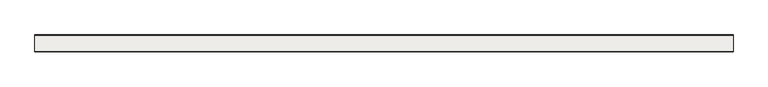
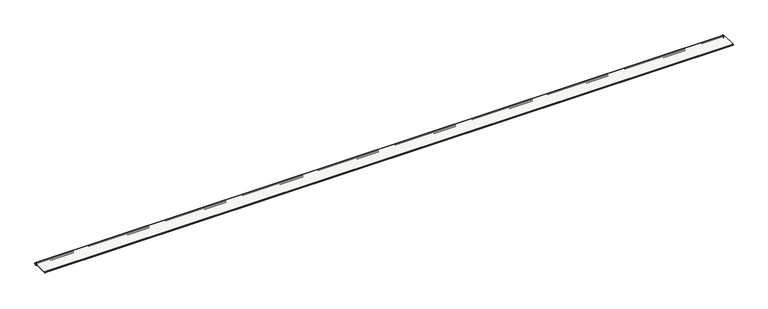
"""IFC4 building model written with IfcOpenShell, lengths in millimetres: slab geometry, ROSA GRES_J62 : Pieza J62_Tao_Beige_Anti-Slip."""

from ifc_helpers import new_model, si_unit, frame, origin, place, context, project, spatial, polyline, circle_curve, source, transform, mapped, element, save
from ifc_brep_helpers import plane_surface, cylinder_surface, revolved_surface, advanced_brep


def slab_61d0ff87(model_context):
    return source(origin(), model_context, "Body", "AdvancedBrep", [
        advanced_brep(
        [(13030.0, -317.0, 2.5), (13030.0, -314.5, 0.0), (13030.0, -29.6363327, 0.0), (13030.0, -24.5931401, -10.7276172), (13030.0, -29.4411632, -18.2354274), (13030.0, -29.4411632, -24.4017055), (13030.0, -26.7240304, -27.1188383), (13030.0, -20.3835268, -27.1188383), (13030.0, -19.4823107, -26.1230058), (13030.0, -18.5721049, -25.1262743), (13030.0, -17.666394, -25.1262743), (13030.0, -14.760096, -23.1626329), (13030.0, -0.7963935, -2.84429), (13030.0, 0.0, -0.2793766), (13030.0, 0.0, 8.2984975), (13030.0, -3.9876034, 12.7946269), (13030.0, -314.2818333, 12.7946269), (13030.0, -316.9989661, 10.0774941), (0.0, -317.0, 2.5), (0.0, -317.0, 10.0774941), (0.0, -314.2818333, 12.7946269), (0.0, -3.9876034, 12.7946269), (0.0, 0.0, 8.2984975), (0.0, 0.0, -0.2793766), (0.0, -0.7963935, -2.84429), (0.0, -14.760096, -23.1626329), (0.0, -17.666394, -25.1262743), (0.0, -18.5721049, -25.1262743), (0.0, -19.473321, -26.1221068), (0.0, -20.3835268, -27.1188383), (0.0, -26.7240304, -27.1188383), (0.0, -29.4411632, -24.4017055), (0.0, -29.4411632, -18.2354274), (0.0, -24.5931401, -10.7276172), (0.0, -29.6363327, 0.0), (0.0, -314.5, 0.0)],
        [
            (0, 1, circle_curve(frame((13030.0, -314.5, 2.5), z_axis=(1.0, 0.0, 0.0), x_axis=(0.0, -1.0, 0.0)), 2.5)),
            (1, 2),
            (2, 3, circle_curve(frame((13030.0, -30.1604402, -6.7956336), z_axis=(-1.0, 0.0, 0.0), x_axis=(0.0, 0.5768912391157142, 0.8168209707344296)), 6.8158144)),
            (3, 4),
            (4, 5),
            (5, 6, circle_curve(frame((13030.0, -26.7240304, -24.4017055), z_axis=(1.0, 0.0, 0.0), x_axis=(0.0, -1.0, 0.0)), 2.7171328)),
            (6, 7),
            (7, 8, circle_curve(frame((13030.0, -20.3835268, -26.2131274), z_axis=(1.0, 0.0, 0.0), x_axis=(0.0, 0.0995037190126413, -0.9950371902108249)), 0.9057109)),
            (8, 9, circle_curve(frame((13030.0, -18.5721049, -26.0319852), z_axis=(-1.0, 0.0, 0.0), x_axis=(0.0, -1.0, 0.0)), 0.9057109)),
            (9, 10),
            (10, 11, circle_curve(frame((13030.0, -18.9818017, -20.0468365), z_axis=(1.0, 0.0, 0.0), x_axis=(0.0, -0.5938246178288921, -0.804594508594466)), 5.2469978)),
            (11, 12),
            (12, 13, circle_curve(frame((13030.0, -4.5285547, -0.2793766), z_axis=(1.0, 0.0, 0.0), x_axis=(0.0, 0.0, -1.0)), 4.5285547)),
            (13, 14),
            (14, 15, circle_curve(frame((13030.0, -4.5285547, 8.2984975), z_axis=(1.0, 0.0, 0.0), x_axis=(0.0, 0.9928398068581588, -0.11945341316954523)), 4.5285547)),
            (15, 16),
            (16, 17, circle_curve(frame((13030.0, -314.2818333, 10.0774941), z_axis=(1.0, 0.0, 0.0), x_axis=(0.0, 0.0, 1.0)), 2.7171328)),
            (17, 0),
            (18, 19),
            (19, 20, circle_curve(frame((0.0, -314.2818333, 10.0774941), z_axis=(-1.0, 0.0, 0.0), x_axis=(0.0, 0.0, 1.0)), 2.7171328)),
            (20, 21),
            (21, 22, circle_curve(frame((0.0, -4.5285547, 8.2984975), z_axis=(-1.0, 0.0, 0.0), x_axis=(0.0, 0.9928398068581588, -0.11945341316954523)), 4.5285547)),
            (22, 23),
            (23, 24, circle_curve(frame((0.0, -4.5285547, -0.2793766), z_axis=(-1.0, 0.0, 0.0), x_axis=(0.0, 0.0, -1.0)), 4.5285547)),
            (24, 25),
            (25, 26, circle_curve(frame((0.0, -18.9818017, -20.0468365), z_axis=(-1.0, 0.0, 0.0), x_axis=(0.0, -0.5938246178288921, -0.804594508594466)), 5.2469978)),
            (26, 27),
            (27, 28, circle_curve(frame((0.0, -18.5721049, -26.0319852), z_axis=(1.0, 0.0, 0.0), x_axis=(0.0, -1.0, 0.0)), 0.9057109)),
            (28, 29, circle_curve(frame((0.0, -20.3835268, -26.2131274), z_axis=(-1.0, 0.0, 0.0), x_axis=(0.0, 0.0995037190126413, -0.9950371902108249)), 0.9057109)),
            (29, 30),
            (30, 31, circle_curve(frame((0.0, -26.7240304, -24.4017055), z_axis=(-1.0, 0.0, 0.0), x_axis=(0.0, -1.0, 0.0)), 2.7171328)),
            (31, 32),
            (32, 33),
            (33, 34, circle_curve(frame((0.0, -30.1604402, -6.7956336), z_axis=(1.0, 0.0, 0.0), x_axis=(0.0, 0.5768912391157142, 0.8168209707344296)), 6.8158144)),
            (34, 35),
            (35, 18, circle_curve(frame((0.0, -314.5, 2.5), z_axis=(-1.0, 0.0, 0.0), x_axis=(0.0, -1.0, 0.0)), 2.5)),
            (1, 35),
            (34, 2),
            (0, 18),
            (17, 19),
            (16, 20),
            (15, 21),
            (14, 22),
            (13, 23),
            (12, 24),
            (11, 25),
            (10, 26),
            (9, 27),
            (8, 28),
            (7, 29),
            (6, 30),
            (5, 31),
            (4, 32),
            (3, 33),
        ],
        [
            plane_surface(frame((13030.0, -317.0, 10.0774941), z_axis=(1.0, 0.0, 0.0), x_axis=(0.0, 0.0, 1.0))),
            plane_surface(frame((0.0, -317.0, 10.0774941), z_axis=(-1.0, 0.0, 0.0), x_axis=(0.0, 0.0, -1.0))),
            plane_surface(frame((13030.0, -172.0681664, 0.0), z_axis=(0.0, 0.0, -1.0), x_axis=(0.0, -1.0, 0.0))),
            cylinder_surface(frame((13030.0, -314.5, 2.5), z_axis=(-1.0, 0.0, 0.0), x_axis=(0.0, -1.0, 0.0)), 2.5),
            plane_surface(frame((13030.0, -317.0, 6.288747), z_axis=(0.0, -1.0, 0.0), x_axis=(0.0, 0.0, 1.0))),
            cylinder_surface(frame((13030.0, -314.2818333, 10.0774941), z_axis=(-1.0, 0.0, 0.0), x_axis=(0.0, 0.0, 1.0)), 2.7171328),
            plane_surface(frame((13030.0, -159.1347183, 12.7946269), z_axis=(0.0, 0.0, 1.0), x_axis=(0.0, 1.0, 0.0))),
            cylinder_surface(frame((13030.0, -4.5285547, 8.2984975), z_axis=(-1.0, 0.0, 0.0), x_axis=(0.0, 0.9928398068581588, -0.11945341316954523)), 4.5285547),
            plane_surface(frame((13030.0, 0.0, 4.0095604), z_axis=(0.0, 1.0, 0.0), x_axis=(0.0, 0.0, -1.0))),
            cylinder_surface(frame((13030.0, -4.5285547, -0.2793766), z_axis=(-1.0, 0.0, 0.0), x_axis=(0.0, 0.0, -1.0)), 4.5285547),
            plane_surface(frame((13030.0, -7.7782448, -13.0034614), z_axis=(0.0, 0.8241395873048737, -0.5663867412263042), x_axis=(0.0, -0.5663867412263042, -0.8241395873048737))),
            cylinder_surface(frame((13030.0, -18.9818017, -20.0468365), z_axis=(-1.0, 0.0, 0.0), x_axis=(0.0, -0.5938246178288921, -0.804594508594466)), 5.2469978),
            plane_surface(frame((13030.0, -18.1192494, -25.1262743), z_axis=(0.0, 1.5022515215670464e-10, -1.0), x_axis=(0.0, -1.0, -1.5022515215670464e-10))),
            revolved_surface(polyline([(0.0, -19.4778158, -26.0319852), (13030.0, -19.4778158, -26.0319852)]), (13030.0, -18.5721049, -26.0319852), (-1.0, 0.0, 0.0)),
            cylinder_surface(frame((13030.0, -20.3835268, -26.2131274), z_axis=(-1.0, 0.0, 0.0), x_axis=(0.0, 0.0995037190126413, -0.9950371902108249)), 0.9057109),
            plane_surface(frame((13030.0, -23.5537786, -27.1188383), z_axis=(0.0, 2.19666388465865e-11, -1.0), x_axis=(0.0, -1.0, -2.19666388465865e-11))),
            cylinder_surface(frame((13030.0, -26.7240304, -24.4017055), z_axis=(-1.0, 0.0, 0.0), x_axis=(0.0, -1.0, 0.0)), 2.7171328),
            plane_surface(frame((13030.0, -29.4411632, -21.3185665), z_axis=(0.0, -1.0, 0.0), x_axis=(0.0, 0.0, 1.0))),
            plane_surface(frame((13030.0, -27.0171517, -14.4815223), z_axis=(0.0, -0.8400786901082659, 0.5424645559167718), x_axis=(0.0, 0.5424645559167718, 0.8400786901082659))),
            revolved_surface(polyline([(0.0, -26.228456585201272, -1.2283334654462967), (13030.0, -26.228456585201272, -1.2283334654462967)]), (13030.0, -30.1604402, -6.7956336), (-1.0, 0.0, 0.0)),
        ],
        [
            (0, [[1, 2, 3, 4, 5, 6, 7, 8, 9, 10, 11, 12, 13, 14, 15, 16, 17, 18]]),
            (1, [[19, 20, 21, 22, 23, 24, 25, 26, 27, 28, 29, 30, 31, 32, 33, 34, 35, 36]]),
            (2, [[37, -35, 38, -2]]),
            (3, [[39, -36, -37, -1]]),
            (4, [[40, -19, -39, -18]]),
            (5, [[41, -20, -40, -17]]),
            (6, [[42, -21, -41, -16]]),
            (7, [[43, -22, -42, -15]]),
            (8, [[44, -23, -43, -14]]),
            (9, [[45, -24, -44, -13]]),
            (10, [[46, -25, -45, -12]]),
            (11, [[47, -26, -46, -11]]),
            (12, [[48, -27, -47, -10]]),
            (13, [[49, -28, -48, -9]]),
            (14, [[50, -29, -49, -8]]),
            (15, [[51, -30, -50, -7]]),
            (16, [[52, -31, -51, -6]]),
            (17, [[53, -32, -52, -5]]),
            (18, [[54, -33, -53, -4]]),
            (19, [[-38, -34, -54, -3]]),
        ],
    ),
    ])


if __name__ == "__main__":
    model = new_model("IFC4")
    model_context = context("Model", 3, world=origin())
    ifc_project = project(units=[si_unit("LENGTHUNIT", "METRE", prefix="MILLI")], contexts=[model_context])
    site = spatial("IfcSite", under=ifc_project)
    building = spatial("IfcBuilding", under=site)
    placement = place(None, origin())
    slab_shape = slab_61d0ff87(model_context)
    element("IfcSlab", 1, ObjectType="ROSA GRES_J62 : Pieza J62_Tao_Beige_Anti-Slip", at=placement, inside=building, context=model_context, shape_type="MappedRepresentation", body=[
        mapped(slab_shape, transform((0.0, 0.0, 0.0), x_axis=(1.0, 0.0, 0.0), y_axis=(0.0, 1.0, 0.0), z_axis=(0.0, 0.0, 1.0))),
    ])
    save(model, "model.ifc")
